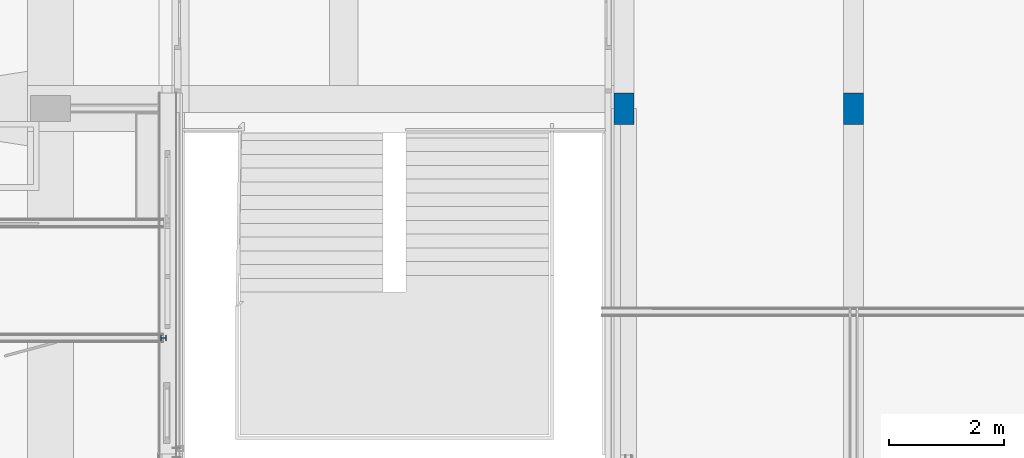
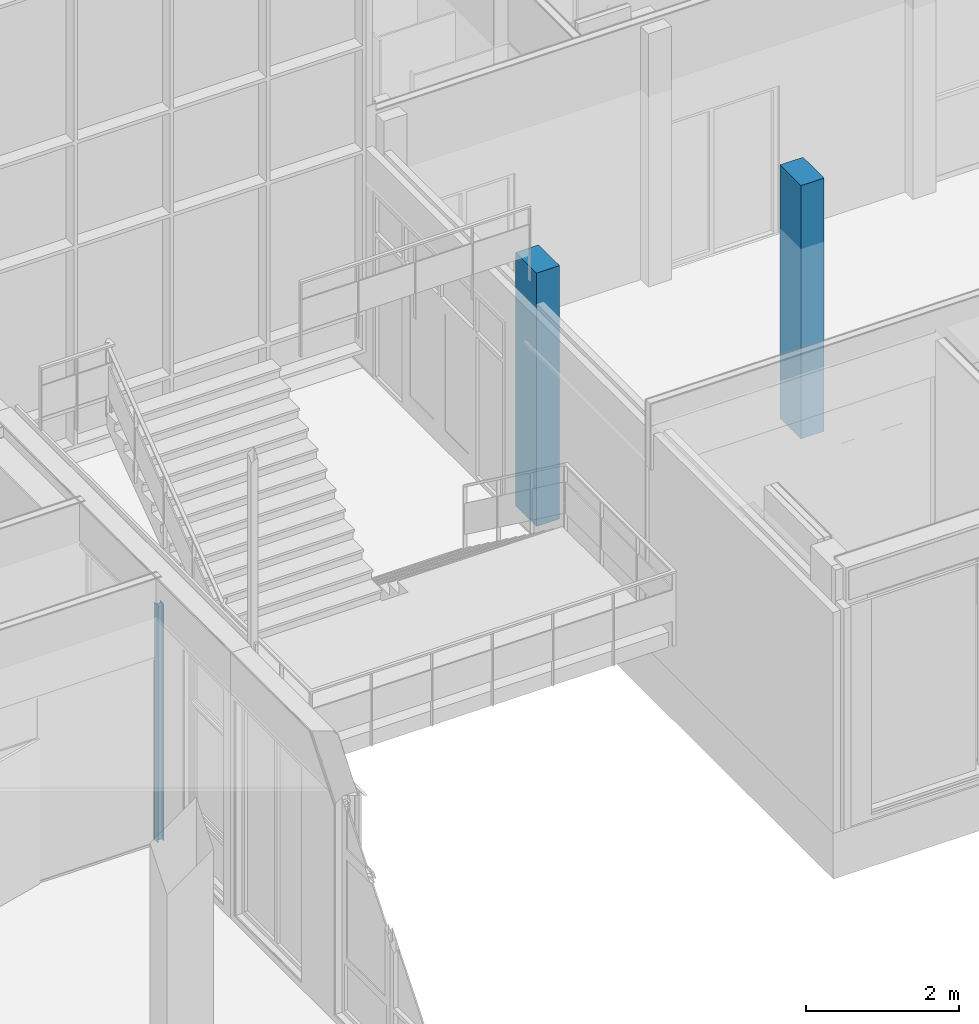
# One storey, part 9 of 94: 3 columns.
"""IFC2X3 building model written with IfcOpenShell, lengths in millimetres."""

from ifc_helpers import new_model, entity, si_unit, converted_unit, derived_unit, money_unit, direction, frame, origin_with_axes, place, context, subcontext, project, spatial, faceted_brep, material, type_object, element, save


model = new_model("IFC2X3")

# Units and contexts
model_context = context("Model", 3, precision=0.01, world=origin_with_axes(), true_north=direction((0.0, 1.0)))
body_context = subcontext(model_context, "Body", "Model", "MODEL_VIEW")
ifc_project = project(units=[si_unit("LENGTHUNIT", "METRE", prefix="MILLI"), si_unit("AREAUNIT", "SQUARE_METRE"), si_unit("VOLUMEUNIT", "CUBIC_METRE"), converted_unit("PLANEANGLEUNIT", "DEGREE", entity("IfcPlaneAngleMeasure", 0.0174532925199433), si_unit("PLANEANGLEUNIT", "RADIAN"), dimensions=[0, 0, 0, 0, 0, 0, 0]), money_unit("EUR"), converted_unit("TIMEUNIT", "Year", entity("IfcTimeMeasure", 31557600.0), si_unit("TIMEUNIT", "SECOND"), dimensions=[0, 0, 1, 0, 0, 0, 0]), si_unit("MASSUNIT", "GRAM", prefix="KILO"), si_unit("THERMODYNAMICTEMPERATUREUNIT", "DEGREE_CELSIUS"), si_unit("LUMINOUSINTENSITYUNIT", "LUMEN"), si_unit("ENERGYUNIT", "JOULE", prefix="MEGA"), derived_unit("THERMALCONDUCTANCEUNIT", [(si_unit("POWERUNIT", "WATT"), 1), (si_unit("LENGTHUNIT", "METRE"), -1), (si_unit("THERMODYNAMICTEMPERATUREUNIT", "KELVIN"), -1)]), derived_unit("SPECIFICHEATCAPACITYUNIT", [(si_unit("ENERGYUNIT", "JOULE"), 1), (si_unit("MASSUNIT", "GRAM", prefix="KILO"), -1), (si_unit("THERMODYNAMICTEMPERATUREUNIT", "KELVIN"), -1)]), derived_unit("MASSDENSITYUNIT", [(si_unit("MASSUNIT", "GRAM", prefix="KILO"), 1), (si_unit("VOLUMEUNIT", "CUBIC_METRE"), -1)])], contexts=[model_context])

# Site, building, storey
site_placement = place(None, origin_with_axes())
site = spatial("IfcSite", under=ifc_project, at=site_placement, Name="<site naam>", CompositionType="ELEMENT")
building_placement = place(site_placement, origin_with_axes())
building = spatial("IfcBuilding", under=site, at=building_placement, Name="<Naam gebouw>", CompositionType="ELEMENT")
storey_placement = place(building_placement, frame((0.0, 0.0, 4250.0), z_axis=(0.0, 0.0, 1.0), x_axis=(1.0, 0.0, 0.0)))
storey = spatial("IfcBuildingStorey", under=building, at=storey_placement, Name="01 1e verdieping", CompositionType="ELEMENT", Elevation=4250.0)

# Columns
ifc_material_1 = material(Name="staal C")
column_type_1 = type_object("IfcColumnType", Name="Profiel H algemeen 100 x 96", PredefinedType="COLUMN")
column_1_placement = place(storey_placement, frame((3967.499999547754, 4000.000000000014, 0.0), z_axis=(0.0, 0.0, 1.0), x_axis=(0.0, -1.0, 0.0)))
element("IfcColumn", 1, at=column_1_placement, inside=storey, type_object=column_type_1, material=ifc_material_1, Name="28_Kolom_Profiel", ObjectType="COLUMN", context=body_context, shape_type="Brep", body=[
    faceted_brep([(-50.00000009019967, -48.00000045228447, 3789.999753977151), (-50.00000009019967, -48.00000045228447, 0.0), (50.00000009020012, -48.00000045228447, 0.0), (50.00000009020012, -48.00000045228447, 3789.999753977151), (-50.00000014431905, -39.99999797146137, 3789.999753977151), (-50.00000014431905, -39.99999797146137, 0.0), (-2.499999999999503, -39.99999797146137, 0.0), (-2.499999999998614, 39.99999797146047, 0.0), (-50.00000014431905, 39.99999797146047, 0.0), (-50.00000009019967, 48.00000045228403, 0.0), (50.00000009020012, 48.00000045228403, 0.0), (50.00000014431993, 39.99999797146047, 0.0), (2.500000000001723, 39.99999797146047, 0.0), (2.500000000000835, -39.99999797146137, 0.0), (50.00000014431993, -39.99999797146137, 0.0), (50.00000014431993, -39.99999797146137, 3789.999753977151), (2.500000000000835, -39.99999797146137, 3789.999753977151), (2.500000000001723, 39.99999797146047, 3789.999753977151), (50.00000014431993, 39.99999797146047, 3789.999753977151), (50.00000009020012, 48.00000045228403, 3789.999753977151), (-50.00000009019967, 48.00000045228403, 3789.999753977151), (-50.00000014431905, 39.99999797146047, 3789.999753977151), (-2.499999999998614, 39.99999797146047, 3789.999753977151), (-2.499999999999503, -39.99999797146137, 3789.999753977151)], [[[0, 1, 2, 3]], [[4, 5, 1, 0]], [[2, 1, 5, 6, 7, 8, 9, 10, 11, 12, 13, 14]], [[3, 2, 14, 15]], [[4, 0, 3, 15, 16, 17, 18, 19, 20, 21, 22, 23]], [[23, 6, 5, 4]], [[22, 7, 6, 23]], [[21, 8, 7, 22]], [[20, 9, 8, 21]], [[19, 10, 9, 20]], [[18, 11, 10, 19]], [[17, 12, 11, 18]], [[16, 13, 12, 17]], [[15, 14, 13, 16]]]),
])
ifc_material_2 = material(Name="beton_gewapend C")
column_type_2 = type_object("IfcColumnType", Name="beton_gewapend C 350 x 550", PredefinedType="COLUMN")
column_2_placement = place(storey_placement, frame((11999.99995202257, 7999.999953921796, 0.0), z_axis=(0.0, 0.0, 1.0), x_axis=(1.0, 0.0, 0.0)))
element("IfcColumn", 2, at=column_2_placement, inside=storey, type_object=column_type_2, material=ifc_material_2, Name="28_Kolom_beton_gewapend", ObjectType="COLUMN", context=body_context, shape_type="Brep", body=[
    faceted_brep([(175.0000000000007, -275.0000000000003, 0.0), (175.0000000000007, -275.0000000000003, 4050.000000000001), (-175.0000000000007, -275.0000000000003, 4050.000000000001), (-175.0000000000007, -275.0000000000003, 0.0), (175.0000000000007, 275.0000000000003, 0.0), (175.0000000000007, 275.0000000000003, 4050.000000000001), (-175.0000000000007, 274.9999999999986, 4050.000000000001), (-175.0000000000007, 274.9999999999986, 0.0)], [[[0, 1, 2, 3]], [[4, 5, 1, 0]], [[1, 5, 6, 2]], [[3, 2, 6, 7]], [[7, 4, 0, 3]], [[7, 6, 5, 4]]]),
])
column_3_placement = place(storey_placement, frame((16000.00000000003, 8000.000000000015, 0.0), z_axis=(0.0, 0.0, 1.0), x_axis=(1.0, 0.0, 0.0)))
element("IfcColumn", 3, at=column_3_placement, inside=storey, type_object=column_type_2, material=ifc_material_2, Name="28_Kolom_beton_gewapend", ObjectType="COLUMN", context=body_context, shape_type="Brep", body=[
    faceted_brep([(-174.9999999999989, -275.0000000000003, 4050.000000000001), (-174.9999999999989, -275.0000000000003, 0.0), (175.0000000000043, -275.0000000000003, 0.0), (175.0000000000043, -275.0000000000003, 4050.000000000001), (-174.9999999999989, 275.0000000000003, 4050.000000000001), (-174.9999999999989, 275.0000000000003, 0.0), (175.0000000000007, 275.0000000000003, 0.0), (175.0000000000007, 275.0000000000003, 4050.000000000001)], [[[0, 1, 2, 3]], [[4, 5, 1, 0]], [[2, 1, 5, 6]], [[3, 2, 6, 7]], [[4, 0, 3, 7]], [[7, 6, 5, 4]]]),
])

save(model, "model.ifc")
